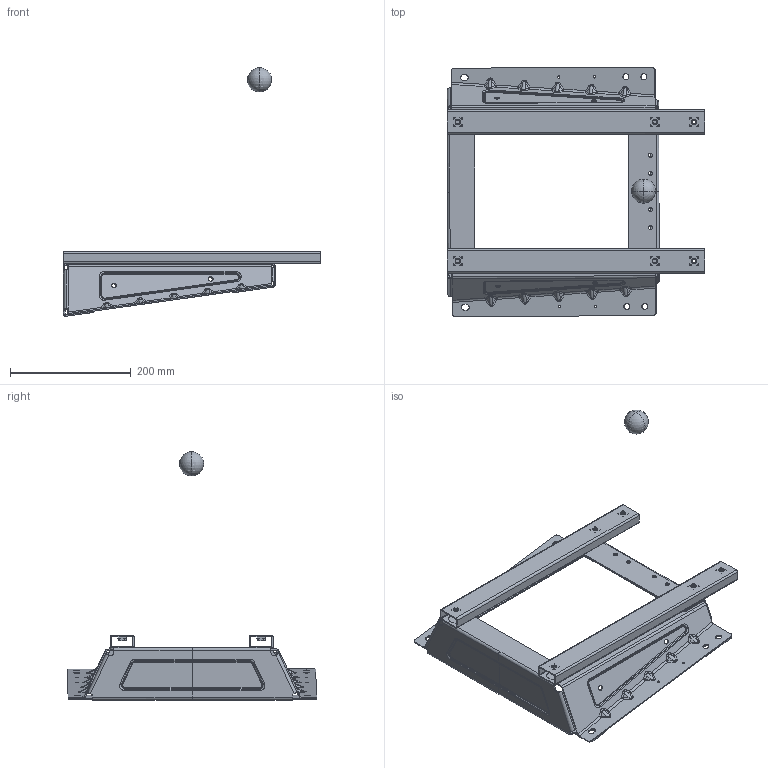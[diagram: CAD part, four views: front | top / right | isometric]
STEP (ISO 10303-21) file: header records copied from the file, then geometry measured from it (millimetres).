
FILE_DESCRIPTION(('CATIA V5 STEP Exchange'),'2;1');
FILE_NAME('F:\重卡项目整理未完待续\03-一汽项目\长春J6G3.0+自适应\3D\J6P-3.0-底支架-匹配H6滑轨.stp','2024-12-17T09:15:07+00:00',('none'),('none'),'CATIA Version 5 Release 20 GA (IN-10)','CATIA V5 STEP AP214','none');
FILE_SCHEMA(('AUTOMOTIVE_DESIGN { 1 0 10303 214 1 1 1 1 }'));
Length unit declared in the file: millimetre
Products named in the file (10): J6P-3.0; 11; SHT0015962; SHT0014478; SHT0014479; SHT0014481; SHT0014480; 000; 111; BFA0000518
Assembly tree (12 placements, depth 4):
  J6P-3.0
    11
    SHT0015962
      SHT0014478
      SHT0014479
      SHT0014481
      SHT0014480
      000  x2
        111
        BFA0000518
Bounding box: 426.66 x 412.25 x 411.06 mm (x, y, z)
Volume: 536214.9 mm3; surface area: 553844.3 mm2
Topology: 12 solids, 13 shells, 1366 faces, 3674 edges, 2251 vertices
Faces by surface type: cylinder 626, plane 398, cone 132, sphere 84, bspline 54, torus 48, extrusion 24
Entity records: 39078 total; most frequent: CARTESIAN_POINT 16185, ORIENTED_EDGE 5140, DIRECTION 3788, EDGE_CURVE 2570, AXIS2_PLACEMENT_3D 1705, VERTEX_POINT 1586, VECTOR 1127, LINE 1123
